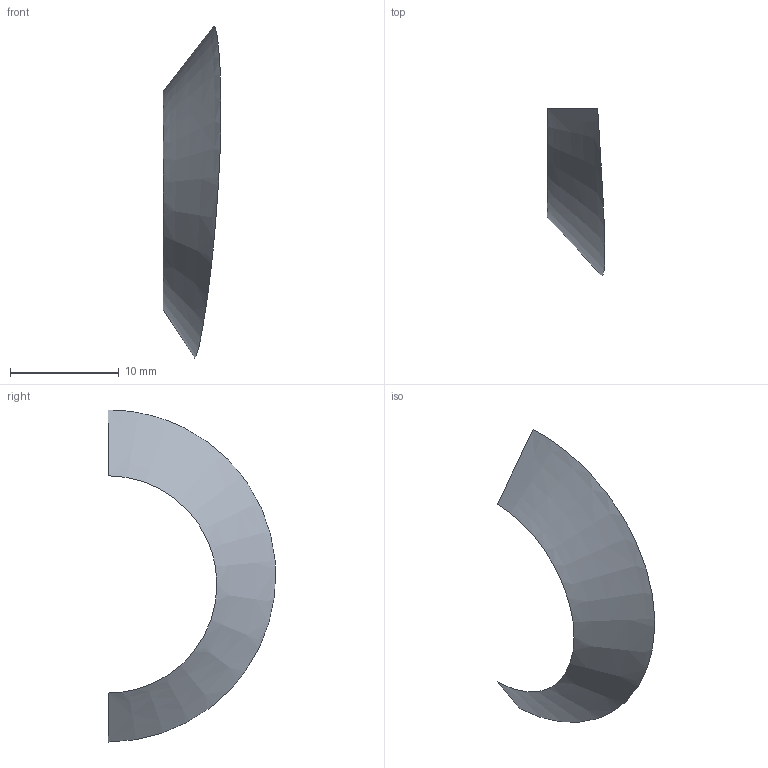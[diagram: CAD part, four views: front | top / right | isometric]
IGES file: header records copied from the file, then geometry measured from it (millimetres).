
Start section: START RECORD GO HERE
Global section: file name: s17.igs; native system: IBM CATIA IGES - CATIA SOLUTIONS V4RELEASE 1.9 REFRESH 01; preprocessor: CATIA SOLUTIONS V4RELEASE 1.9 REFRESH 01; author: cky; date: 990510.133752; units: millimetre
Bounding box: 5.34 x 15.41 x 30.57 mm (x, y, z)
Surface area: 279.4 mm2 (no closed solid volume)
Topology: 0 solids, 0 shells, 1 faces, 13 edges, 13 vertices
Faces by surface type: bspline 1
